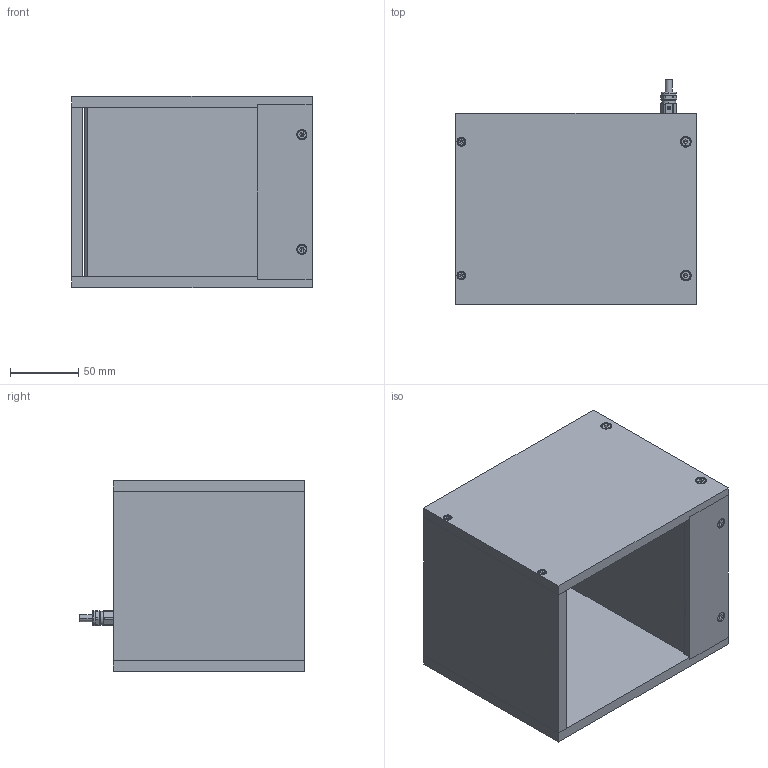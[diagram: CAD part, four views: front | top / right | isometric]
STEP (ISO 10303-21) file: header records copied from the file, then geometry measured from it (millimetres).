
FILE_DESCRIPTION (( 'STEP AP214' ), '1' );
FILE_NAME ('L1056.STEP', '2021-03-15T13:21:55', ( '' ), ( '' ), 'SwSTEP 2.0', 'SolidWorks 2021', '' );
FILE_SCHEMA (( 'AUTOMOTIVE_DESIGN' ));
Length unit declared in the file: millimetre
Products named in the file (13): L1G001056, Verbindungsplatte; socket head cap screw_din_DIN 912 M3 x 12 --- 12N; L1G001056, Seitenplatte 1; SKINDICHT_MINI_M_8x1; L1G001056, Seitenplatte 2; L1056; Kabel ø5; L1G001056, Kopfplatte 2; L1G001056, Beam Splitter; socket head cap screw_din_DIN 912 M4 x 10 --- 10N; L1G001056, Kopfplatte 1; L1G001056, Grundplatte; L1G001056, Schutzscheibe
Assembly tree (22 placements, depth 2):
  L1056
    L1G001056, Grundplatte
    L1G001056, Kopfplatte 1
    L1G001056, Seitenplatte 2
    L1G001056, Seitenplatte 1
    L1G001056, Beam Splitter
    L1G001056, Verbindungsplatte
    L1G001056, Kopfplatte 2
    L1G001056, Schutzscheibe
    SKINDICHT_MINI_M_8x1
    Kabel ø5
    socket head cap screw_din_DIN 912 M3 x 12 --- 12N  x4
    socket head cap screw_din_DIN 912 M4 x 10 --- 10N  x8
Bounding box: 176 x 164.83 x 140 mm (x, y, z)
Volume: 941945.3 mm3; surface area: 305882.9 mm2
Topology: 22 solids, 23 shells, 675 faces, 1551 edges, 916 vertices
Faces by surface type: plane 306, cylinder 199, cone 114, torus 56
Entity records: 12682 total; most frequent: DIRECTION 2135, CARTESIAN_POINT 2043, ORIENTED_EDGE 1838, EDGE_CURVE 919, AXIS2_PLACEMENT_3D 810, VERTEX_POINT 586, LINE 515, VECTOR 515
